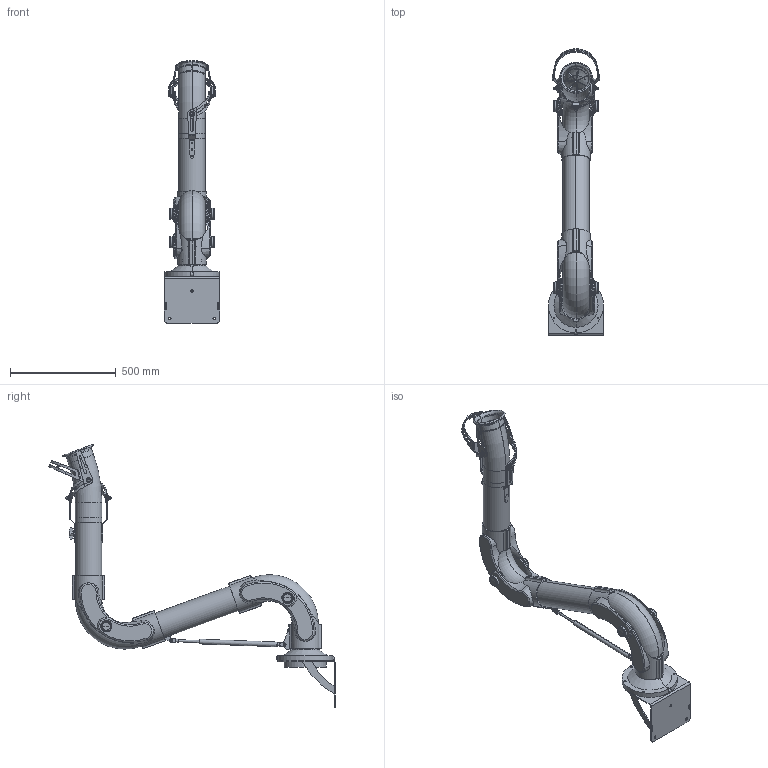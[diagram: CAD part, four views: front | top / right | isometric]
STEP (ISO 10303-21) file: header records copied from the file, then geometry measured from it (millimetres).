
FILE_DESCRIPTION((''),'2;1');
FILE_NAME('124970','2019-03-11T08:21:10',('Gustav Stenberg'),(''),'CREO PARAMETRIC BY PTC INC, 2018260','CREO PARAMETRIC BY PTC INC, 2018260','');
FILE_SCHEMA(('AP242_MANAGED_MODEL_BASED_3D_ENGINEERING_MIM_LF { 1 0 10303 442 1 1 4 }'));
Length unit declared in the file: millimetre
Products named in the file (43): LIGHT_SWIVEL_125_AF0; 126193; G_PRX_SVIVEL_SPRINGMOUNT; 138751; 124020; 124021; 105-5481_1; 101156_1; 124025_AF6; 124025_AF7; 124025_AF8; 124025_AF9; 124880; 124889; 124865; 125076; 124873; 124946; 126055_AF5; 124959_AF1; 142700; 142472; 199-808-125; 142440; 142441; 142490; 142857; 128231; 126055_AF4; 143145; 143004; 100-5835; 142480; 126055_AF6; 129694; G_GAS_SPRING_FORK_MOUNT; 126093; GAS_SPRING_ROD_BANSBACH; 102811-REF; 124366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
Assembly tree (61 placements, depth 5):
  124970
    138751
      126193
        LIGHT_SWIVEL_125_AF0
      G_PRX_SVIVEL_SPRINGMOUNT
    124025_AF6
      124020
      124021
      101156_1
        105-5481_1
    124025_AF7
      124020
      124021
      101156_1
        105-5481_1
    124959_AF1
      124025_AF8
        124020
        124021
        101156_1
          105-5481_1
      124025_AF9
        124020
        124021
        101156_1
          105-5481_1
      124880
      124946
        124889
        124873
          124865
          125076
      126055_AF5
    142480
      142700  x2
      142472  x2
      142857
        199-808-125
        142440
        142441
        142490
      128231
      126055_AF4
      143145  x4
      143004  x4
      100-5835
    126055_AF6
    126093
      129694
      G_GAS_SPRING_FORK_MOUNT
    102811-REF
      GAS_SPRING_ROD_BANSBACH
      G_GAS_SPRING_FORK_MOUNT
    124365
      124366
      123045  x2
Bounding box: 260 x 1351.05 x 1240.45 mm (x, y, z)
Volume: 9823167.5 mm3; surface area: 3056579 mm2
Topology: 46 solids, 46 shells, 1167 faces, 2907 edges, 1889 vertices
Faces by surface type: plane 468, cylinder 427, cone 112, bspline 94, torus 42, sphere 24
Entity records: 36166 total; most frequent: CARTESIAN_POINT 9738, DIRECTION 4082, ORIENTED_EDGE 3720, EDGE_CURVE 1860, AXIS2_PLACEMENT_3D 1559, PRESENTATION_STYLE_ASSIGNMENT 1451, STYLED_ITEM 1451, VERTEX_POINT 1161
